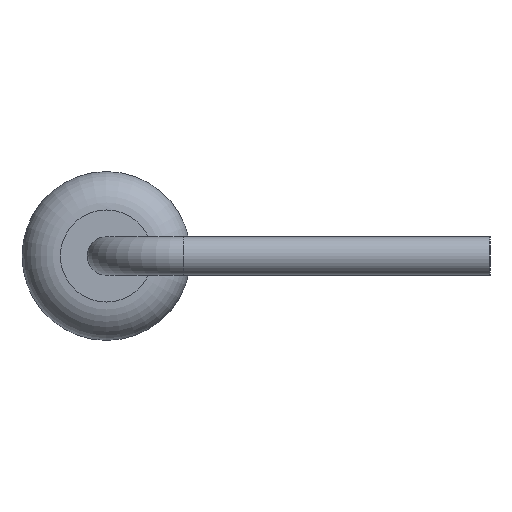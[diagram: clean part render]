
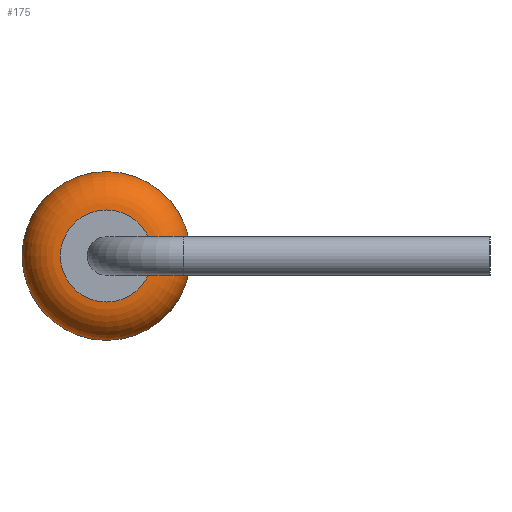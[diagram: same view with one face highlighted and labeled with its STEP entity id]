
A CAD part, left-side view. The second image highlights one B-rep face of the part: STEP entity #175.
In plain terms, the highlighted toroidal (fillet/blend) face has major radius 0.6 mm and minor radius 0.5 mm.
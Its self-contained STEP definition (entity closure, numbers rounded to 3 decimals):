
#175=ADVANCED_FACE('',(#344,#346),#348,.T.);
#344=FACE_OUTER_BOUND('',#345,.T.);
#345=EDGE_LOOP('',(#421));
#346=FACE_OUTER_BOUND('',#347,.T.);
#347=EDGE_LOOP('',(#422));
#348=TOROIDAL_SURFACE('',#349,0.6,0.5);
#349=AXIS2_PLACEMENT_3D('',#350,#351,#352);
#350=CARTESIAN_POINT('',(-2.5,0.,0.));
#351=DIRECTION('',(-1.,0.,0.));
#352=DIRECTION('',(0.,0.,1.));
#421=ORIENTED_EDGE('',*,*,#444,.T.);
#422=ORIENTED_EDGE('',*,*,#445,.F.);
#444=EDGE_CURVE('',#474,#474,#475,.T.);
#445=EDGE_CURVE('',#476,#476,#477,.T.);
#474=VERTEX_POINT('',#546);
#475=CIRCLE('',#547,1.1);
#476=VERTEX_POINT('',#551);
#477=CIRCLE('',#552,0.6);
#546=CARTESIAN_POINT('',(-2.5,0.,1.1));
#547=AXIS2_PLACEMENT_3D('',#548,#549,#550);
#548=CARTESIAN_POINT('',(-2.5,0.,0.));
#549=DIRECTION('',(-1.,0.,0.));
#550=DIRECTION('',(0.,0.,1.));
#551=CARTESIAN_POINT('',(-3.,0.,0.6));
#552=AXIS2_PLACEMENT_3D('',#553,#554,#555);
#553=CARTESIAN_POINT('',(-3.,0.,0.));
#554=DIRECTION('',(-1.,0.,0.));
#555=DIRECTION('',(0.,0.,1.));
